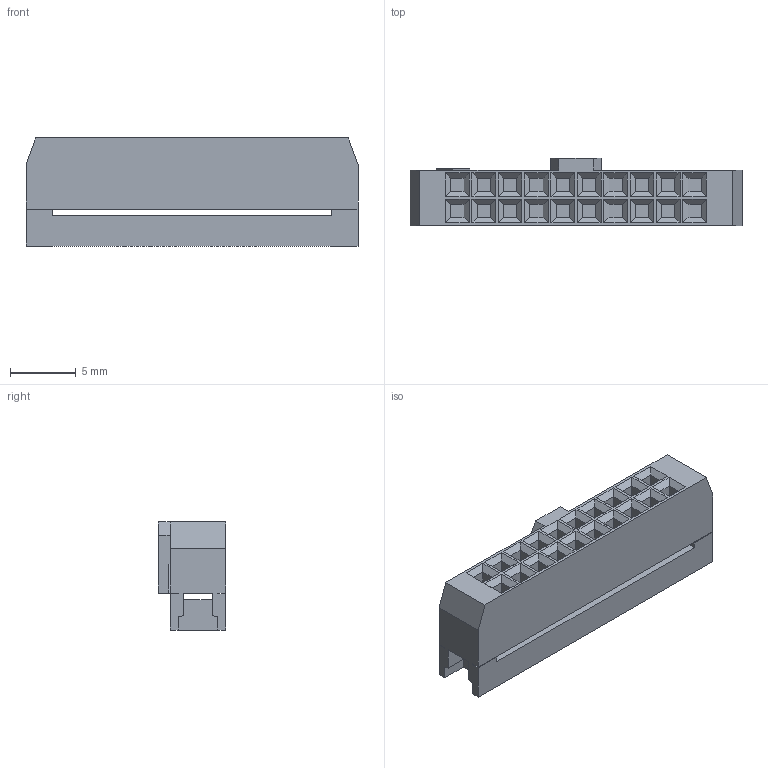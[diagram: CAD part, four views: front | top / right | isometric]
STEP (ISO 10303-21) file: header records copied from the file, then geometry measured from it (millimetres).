
FILE_DESCRIPTION (( 'STEP AP214' ), '1' );
FILE_NAME ('IDC2-20F.STEP', '2011-05-17T10:27:08', ( 'vpeshkov' ), ( 'licard' ), 'SwSTEP 2.0', 'SolidWorks 2009', '' );
FILE_SCHEMA (( 'AUTOMOTIVE_DESIGN' ));
Length unit declared in the file: millimetre
Products named in the file (1): IDC2-20F
Bounding box: 25.2 x 5.1 x 8.2 mm (x, y, z)
Volume: 691.1 mm3; surface area: 1268.7 mm2
Topology: 1 solids, 1 shells, 207 faces, 549 edges, 338 vertices
Faces by surface type: plane 207
Entity records: 6297 total; most frequent: ORIENTED_EDGE 1098, CARTESIAN_POINT 1095, DIRECTION 965, EDGE_CURVE 549, VECTOR 549, LINE 549, VERTEX_POINT 338, EDGE_LOOP 247
